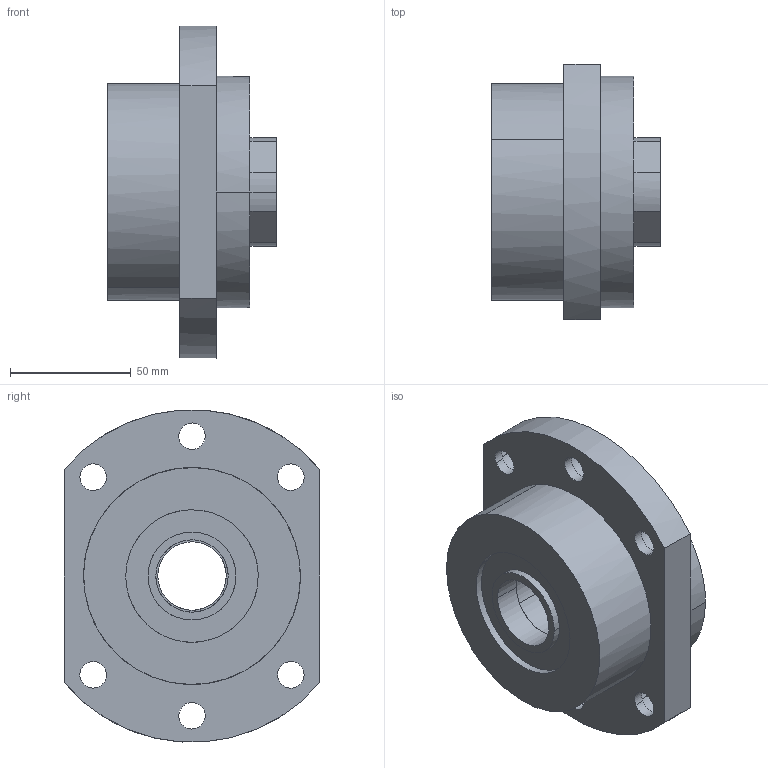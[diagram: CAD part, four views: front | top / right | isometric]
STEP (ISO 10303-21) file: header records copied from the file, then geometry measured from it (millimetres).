
FILE_DESCRIPTION(('CATIA V5 STEP Exchange'),'2;1');
FILE_NAME('D:\서포트 완성도면\FK\FK30.stp','2014-03-26T10:20:08+00:00',('none'),('none'),'CATIA Version 5 Release 18 GA (IN-10)','CATIA V5 STEP AP203','none');
FILE_SCHEMA(('CONFIG_CONTROL_DESIGN'));
Length unit declared in the file: millimetre
Products named in the file (1): FK30
Assembly tree (4 placements, depth 2):
  FK30
    #56
    #2832  x2
    #3108
Bounding box: 70 x 106 x 137.76 mm (x, y, z)
Volume: 425088.6 mm3; surface area: 65006.1 mm2
Topology: 4 solids, 4 shells, 82 faces, 188 edges, 126 vertices
Faces by surface type: cylinder 56, plane 26
Entity records: 3587 total; most frequent: CARTESIAN_POINT 1893, ORIENTED_EDGE 352, DIRECTION 245, EDGE_CURVE 176, VERTEX_POINT 118, EDGE_LOOP 106, AXIS2_PLACEMENT_3D 98, B_SPLINE_CURVE_WITH_KNOTS 81
